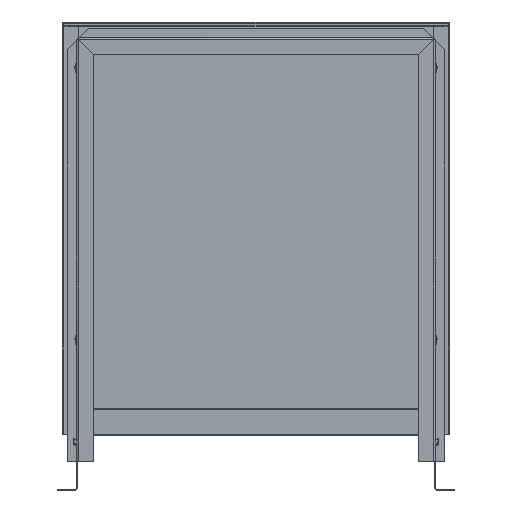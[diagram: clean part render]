
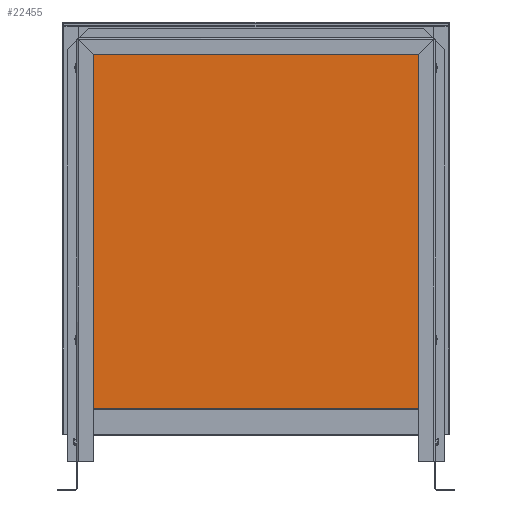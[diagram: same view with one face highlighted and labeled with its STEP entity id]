
A CAD part, front view. The second image highlights one B-rep face of the part: STEP entity #22455.
In plain terms, the highlighted planar face has unit normal (0, -1, 0).
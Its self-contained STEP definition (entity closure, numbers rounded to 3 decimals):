
#16622=CARTESIAN_POINT('',(272.271,0.8,647.2));
#16623=VERTEX_POINT('',#16622);
#16630=CARTESIAN_POINT('',(250.,0.8,624.929));
#16631=VERTEX_POINT('',#16630);
#16632=CARTESIAN_POINT('',(272.271,0.8,647.2));
#16633=DIRECTION('',(-0.707,-0.,-0.707));
#16634=VECTOR('',#16633,31.496);
#16635=LINE('',#16632,#16634);
#16636=EDGE_CURVE('',#16623,#16631,#16635,.T.);
#16687=CARTESIAN_POINT('',(250.,0.8,81.8));
#16688=VERTEX_POINT('',#16687);
#16821=CARTESIAN_POINT('',(250.,0.8,81.8));
#16822=DIRECTION('',(-0.,0.,1.));
#16823=VECTOR('',#16822,543.129);
#16824=LINE('',#16821,#16823);
#16825=EDGE_CURVE('',#16688,#16631,#16824,.T.);
#17457=CARTESIAN_POINT('',(249.929,0.8,625.));
#17458=VERTEX_POINT('',#17457);
#17465=CARTESIAN_POINT('',(272.129,0.8,647.2));
#17466=VERTEX_POINT('',#17465);
#17467=CARTESIAN_POINT('',(249.929,0.8,625.));
#17468=DIRECTION('',(0.707,0.,0.707));
#17469=VECTOR('',#17468,31.396);
#17470=LINE('',#17467,#17469);
#17471=EDGE_CURVE('',#17458,#17466,#17470,.T.);
#18735=CARTESIAN_POINT('',(-272.129,0.8,647.2));
#18736=VERTEX_POINT('',#18735);
#19815=CARTESIAN_POINT('',(-249.929,0.8,625.));
#19816=VERTEX_POINT('',#19815);
#19823=CARTESIAN_POINT('',(249.929,0.8,625.));
#19824=DIRECTION('',(-1.,0.,0.));
#19825=VECTOR('',#19824,499.859);
#19826=LINE('',#19823,#19825);
#19827=EDGE_CURVE('',#17458,#19816,#19826,.T.);
#19858=CARTESIAN_POINT('',(-272.129,0.8,647.2));
#19859=DIRECTION('',(0.707,-0.,-0.707));
#19860=VECTOR('',#19859,31.396);
#19861=LINE('',#19858,#19860);
#19862=EDGE_CURVE('',#18736,#19816,#19861,.T.);
#22285=CARTESIAN_POINT('',(-250.,0.8,624.929));
#22286=VERTEX_POINT('',#22285);
#22293=CARTESIAN_POINT('',(-272.271,0.8,647.2));
#22294=VERTEX_POINT('',#22293);
#22295=CARTESIAN_POINT('',(-250.,0.8,624.929));
#22296=DIRECTION('',(-0.707,0.,0.707));
#22297=VECTOR('',#22296,31.496);
#22298=LINE('',#22295,#22297);
#22299=EDGE_CURVE('',#22286,#22294,#22298,.T.);
#22316=CARTESIAN_POINT('',(-250.,0.8,81.8));
#22317=VERTEX_POINT('',#22316);
#22384=CARTESIAN_POINT('',(-250.,0.8,624.929));
#22385=DIRECTION('',(-0.,0.,-1.));
#22386=VECTOR('',#22385,543.129);
#22387=LINE('',#22384,#22386);
#22388=EDGE_CURVE('',#22286,#22317,#22387,.T.);
#22423=CARTESIAN_POINT('',(0.,0.8,0.));
#22424=DIRECTION('',(0.,1.,0.));
#22425=DIRECTION('',(-1.,0.,0.));
#22426=AXIS2_PLACEMENT_3D('',#22423,#22424,#22425);
#22427=PLANE('',#22426);
#22428=CARTESIAN_POINT('',(250.,0.8,81.8));
#22429=DIRECTION('',(-1.,0.,0.));
#22430=VECTOR('',#22429,500.);
#22431=LINE('',#22428,#22430);
#22432=EDGE_CURVE('',#16688,#22317,#22431,.T.);
#22433=ORIENTED_EDGE('',*,*,#22432,.F.);
#22434=ORIENTED_EDGE('',*,*,#16825,.T.);
#22435=ORIENTED_EDGE('',*,*,#16636,.F.);
#22436=CARTESIAN_POINT('',(272.129,0.8,647.2));
#22437=DIRECTION('',(1.,0.,-0.));
#22438=VECTOR('',#22437,0.141);
#22439=LINE('',#22436,#22438);
#22440=EDGE_CURVE('',#17466,#16623,#22439,.T.);
#22441=ORIENTED_EDGE('',*,*,#22440,.F.);
#22442=ORIENTED_EDGE('',*,*,#17471,.F.);
#22443=ORIENTED_EDGE('',*,*,#19827,.T.);
#22444=ORIENTED_EDGE('',*,*,#19862,.F.);
#22445=CARTESIAN_POINT('',(-272.271,0.8,647.2));
#22446=DIRECTION('',(1.,0.,-0.));
#22447=VECTOR('',#22446,0.141);
#22448=LINE('',#22445,#22447);
#22449=EDGE_CURVE('',#22294,#18736,#22448,.T.);
#22450=ORIENTED_EDGE('',*,*,#22449,.F.);
#22451=ORIENTED_EDGE('',*,*,#22299,.F.);
#22452=ORIENTED_EDGE('',*,*,#22388,.T.);
#22453=EDGE_LOOP('',(#22433,#22434,#22435,#22441,#22442,#22443,#22444,#22450,#22451,#22452));
#22454=FACE_BOUND('',#22453,.T.);
#22455=ADVANCED_FACE('',(#22454),#22427,.F.);
